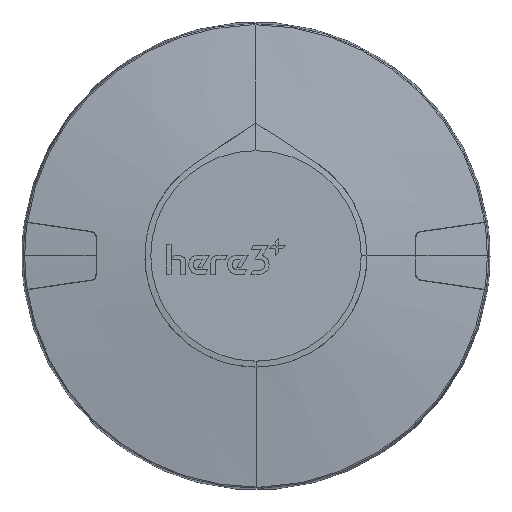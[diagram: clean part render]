
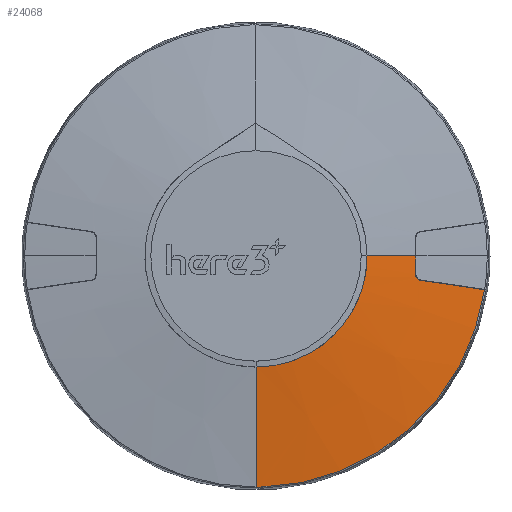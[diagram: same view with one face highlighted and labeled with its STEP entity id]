
A CAD part, top view. The second image highlights one B-rep face of the part: STEP entity #24068.
In plain terms, the highlighted conical face has half-angle 82.262 degrees and reference radius 24.779 mm.
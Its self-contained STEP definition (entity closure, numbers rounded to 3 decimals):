
#658 = EDGE_CURVE ( 'NONE', #3676, #30527, #40233, .T. ) ;
#679 = CARTESIAN_POINT ( 'NONE',  ( 23.125, 0., 5.73 ) ) ;
#813 = FACE_OUTER_BOUND ( 'NONE', #32966, .T. ) ;
#1131 = CARTESIAN_POINT ( 'NONE',  ( 0., -16.102, 6.684 ) ) ;
#1369 = EDGE_CURVE ( 'NONE', #16371, #14785, #11055, .T. ) ;
#2755 = CARTESIAN_POINT ( 'NONE',  ( 23.763, -3.517, 5.608 ) ) ;
#2825 = CARTESIAN_POINT ( 'NONE',  ( 0., 0., 5.505 ) ) ;
#3072 = CARTESIAN_POINT ( 'NONE',  ( 23.597, -3.452, 5.632 ) ) ;
#3235 = CARTESIAN_POINT ( 'NONE',  ( 23.127, -2.682, 5.709 ) ) ;
#3297 = DIRECTION ( 'NONE',  ( -0.98, 0.144, 0.135 ) ) ;
#3418 = CARTESIAN_POINT ( 'NONE',  ( 15.577, -4.171, 6.686 ) ) ;
#3642 = DIRECTION ( 'NONE',  ( 0.989, -0.146, 0. ) ) ;
#3676 = VERTEX_POINT ( 'NONE', #39344 ) ;
#5455 = CARTESIAN_POINT ( 'NONE',  ( 0., -16.102, 6.684 ) ) ;
#5920 = VECTOR ( 'NONE', #31377, 1000. ) ;
#6755 = CARTESIAN_POINT ( 'NONE',  ( 2.105, -16., 6.684 ) ) ;
#7016 = CARTESIAN_POINT ( 'NONE',  ( 23.481, -3.387, 5.649 ) ) ;
#9274 = AXIS2_PLACEMENT_3D ( 'NONE', #39740, #21771, #3642 ) ;
#10258 = CARTESIAN_POINT ( 'NONE',  ( 23.665, -3.483, 5.622 ) ) ;
#10522 = EDGE_CURVE ( 'NONE', #22125, #3676, #46427, .T. ) ;
#10752 = CARTESIAN_POINT ( 'NONE',  ( 9.889, -12.875, 6.685 ) ) ;
#10760 = VERTEX_POINT ( 'NONE', #41198 ) ;
#10778 = CARTESIAN_POINT ( 'NONE',  ( 23.125, -0.895, 5.73 ) ) ;
#11055 = LINE ( 'NONE', #1131, #5920 ) ;
#11449 = ORIENTED_EDGE ( 'NONE', *, *, #10522, .T. ) ;
#11759 = VERTEX_POINT ( 'NONE', #33061 ) ;
#11946 = ORIENTED_EDGE ( 'NONE', *, *, #20501, .F. ) ;
#13788 = CARTESIAN_POINT ( 'NONE',  ( 4.171, -15.591, 6.685 ) ) ;
#13970 = CARTESIAN_POINT ( 'NONE',  ( 33.124, -4.899, 4.322 ) ) ;
#14219 = CARTESIAN_POINT ( 'NONE',  ( 23.4, -3.32, 5.661 ) ) ;
#14785 = VERTEX_POINT ( 'NONE', #20634 ) ;
#16183 = CARTESIAN_POINT ( 'NONE',  ( 23.868, -3.538, 5.594 ) ) ;
#16371 = VERTEX_POINT ( 'NONE', #5455 ) ;
#17156 = CARTESIAN_POINT ( 'NONE',  ( 24.779, 0., 5.505 ) ) ;
#17468 = CARTESIAN_POINT ( 'NONE',  ( 14.063, -8.108, 6.686 ) ) ;
#17642 = CARTESIAN_POINT ( 'NONE',  ( 23.126, -1.785, 5.723 ) ) ;
#17646 = DIRECTION ( 'NONE',  ( 0., 0., -1. ) ) ;
#17879 = CARTESIAN_POINT ( 'NONE',  ( 23.814, -3.529, 5.601 ) ) ;
#20501 = EDGE_CURVE ( 'NONE', #27850, #14785, #24360, .T. ) ;
#20634 = CARTESIAN_POINT ( 'NONE',  ( 0., -33.484, 4.322 ) ) ;
#20985 = EDGE_CURVE ( 'NONE', #10760, #30527, #30029, .T. ) ;
#21086 = CARTESIAN_POINT ( 'NONE',  ( 23.267, -3.165, 5.682 ) ) ;
#21451 = CARTESIAN_POINT ( 'NONE',  ( 23.125, 0., 5.73 ) ) ;
#21570 = CARTESIAN_POINT ( 'NONE',  ( 12.868, -9.892, 6.686 ) ) ;
#21757 = ORIENTED_EDGE ( 'NONE', *, *, #658, .T. ) ;
#21771 = DIRECTION ( 'NONE',  ( 0., 0., -1. ) ) ;
#22125 = VERTEX_POINT ( 'NONE', #34075 ) ;
#23750 = VECTOR ( 'NONE', #35510, 1000. ) ;
#24068 = ADVANCED_FACE ( 'NONE', ( #813 ), #35046, .T. ) ;
#24360 = CIRCLE ( 'NONE', #9274, 33.484 ) ;
#24906 = AXIS2_PLACEMENT_3D ( 'NONE', #2825, #17646, #43227 ) ;
#24927 = CARTESIAN_POINT ( 'NONE',  ( 15.984, -2.105, 6.686 ) ) ;
#25042 = CARTESIAN_POINT ( 'NONE',  ( 23.127, -2.785, 5.707 ) ) ;
#25217 = CARTESIAN_POINT ( 'NONE',  ( 5.185, -15.283, 6.685 ) ) ;
#25828 = LINE ( 'NONE', #13970, #37934 ) ;
#27850 = VERTEX_POINT ( 'NONE', #31081 ) ;
#28433 = CARTESIAN_POINT ( 'NONE',  ( 15.271, -5.186, 6.686 ) ) ;
#28582 = CARTESIAN_POINT ( 'NONE',  ( 0., -16.102, 6.684 ) ) ;
#28897 = CARTESIAN_POINT ( 'NONE',  ( 16.084, 0., 6.687 ) ) ;
#29290 = B_SPLINE_CURVE_WITH_KNOTS ( 'NONE', 3,
 ( #28582, #46718, #6755, #13788, #25217, #39363, #10752, #21570, #17468, #28433, #3418, #24927, #39980, #28897 ),
 .UNSPECIFIED., .F., .F.,
 ( 4, 2, 2, 2, 2, 2, 4 ),
 ( 0., 0.125, 0.25, 0.5, 0.75, 0.875, 1. ),
 .UNSPECIFIED. ) ;
#29400 = CIRCLE ( 'NONE', #38874, 33.484 ) ;
#29775 = ORIENTED_EDGE ( 'NONE', *, *, #1369, .T. ) ;
#30029 = LINE ( 'NONE', #17156, #23750 ) ;
#30414 = EDGE_CURVE ( 'NONE', #16371, #10760, #29290, .T. ) ;
#30527 = VERTEX_POINT ( 'NONE', #679 ) ;
#31081 = CARTESIAN_POINT ( 'NONE',  ( 0.868, -33.473, 4.322 ) ) ;
#31377 = DIRECTION ( 'NONE',  ( 0., -0.991, -0.135 ) ) ;
#32966 = EDGE_LOOP ( 'NONE', ( #40721, #40342, #29775, #11946, #46056, #34890, #11449, #21757 ) ) ;
#33061 = CARTESIAN_POINT ( 'NONE',  ( 33.124, -4.899, 4.322 ) ) ;
#34075 = CARTESIAN_POINT ( 'NONE',  ( 23.868, -3.538, 5.594 ) ) ;
#34890 = ORIENTED_EDGE ( 'NONE', *, *, #35412, .T. ) ;
#35046 = CONICAL_SURFACE ( 'NONE', #24906, 24.779, 1.436 ) ;
#35412 = EDGE_CURVE ( 'NONE', #11759, #22125, #25828, .T. ) ;
#35510 = DIRECTION ( 'NONE',  ( 0.991, 0., -0.135 ) ) ;
#36104 = CARTESIAN_POINT ( 'NONE',  ( 23.619, -3.462, 5.629 ) ) ;
#36166 = CARTESIAN_POINT ( 'NONE',  ( 23.127, -2.682, 5.709 ) ) ;
#36812 = DIRECTION ( 'NONE',  ( 0.989, -0.146, 0. ) ) ;
#37934 = VECTOR ( 'NONE', #3297, 1000. ) ;
#38874 = AXIS2_PLACEMENT_3D ( 'NONE', #40334, #40640, #36812 ) ;
#39344 = CARTESIAN_POINT ( 'NONE',  ( 23.127, -2.682, 5.709 ) ) ;
#39363 = CARTESIAN_POINT ( 'NONE',  ( 8.106, -14.072, 6.685 ) ) ;
#39475 = CARTESIAN_POINT ( 'NONE',  ( 23.215, -3.076, 5.69 ) ) ;
#39740 = CARTESIAN_POINT ( 'NONE',  ( 0., 0., 4.322 ) ) ;
#39980 = CARTESIAN_POINT ( 'NONE',  ( 16.085, -1.053, 6.686 ) ) ;
#40233 = B_SPLINE_CURVE_WITH_KNOTS ( 'NONE', 3,
 ( #36166, #17642, #10778, #21451 ),
 .UNSPECIFIED., .F., .F.,
 ( 4, 4 ),
 ( 0., 1. ),
 .UNSPECIFIED. ) ;
#40334 = CARTESIAN_POINT ( 'NONE',  ( 0., 0., 4.322 ) ) ;
#40342 = ORIENTED_EDGE ( 'NONE', *, *, #30414, .F. ) ;
#40640 = DIRECTION ( 'NONE',  ( 0., 0., -1. ) ) ;
#40721 = ORIENTED_EDGE ( 'NONE', *, *, #20985, .F. ) ;
#41198 = CARTESIAN_POINT ( 'NONE',  ( 16.084, 0., 6.687 ) ) ;
#42963 = EDGE_CURVE ( 'NONE', #11759, #27850, #29400, .T. ) ;
#43227 = DIRECTION ( 'NONE',  ( 1., 0., 0. ) ) ;
#43459 = CARTESIAN_POINT ( 'NONE',  ( 23.689, -3.492, 5.618 ) ) ;
#46056 = ORIENTED_EDGE ( 'NONE', *, *, #42963, .F. ) ;
#46427 = B_SPLINE_CURVE_WITH_KNOTS ( 'NONE', 3,
 ( #16183, #17879, #2755, #43459, #10258, #36104, #3072, #7016, #14219, #21086, #39475, #46832, #25042, #3235 ),
 .UNSPECIFIED., .F., .F.,
 ( 4, 2, 2, 2, 2, 2, 4 ),
 ( 0., 0.125, 0.188, 0.25, 0.5, 0.75, 1. ),
 .UNSPECIFIED. ) ;
#46718 = CARTESIAN_POINT ( 'NONE',  ( 1.053, -16.102, 6.684 ) ) ;
#46832 = CARTESIAN_POINT ( 'NONE',  ( 23.144, -2.884, 5.703 ) ) ;
